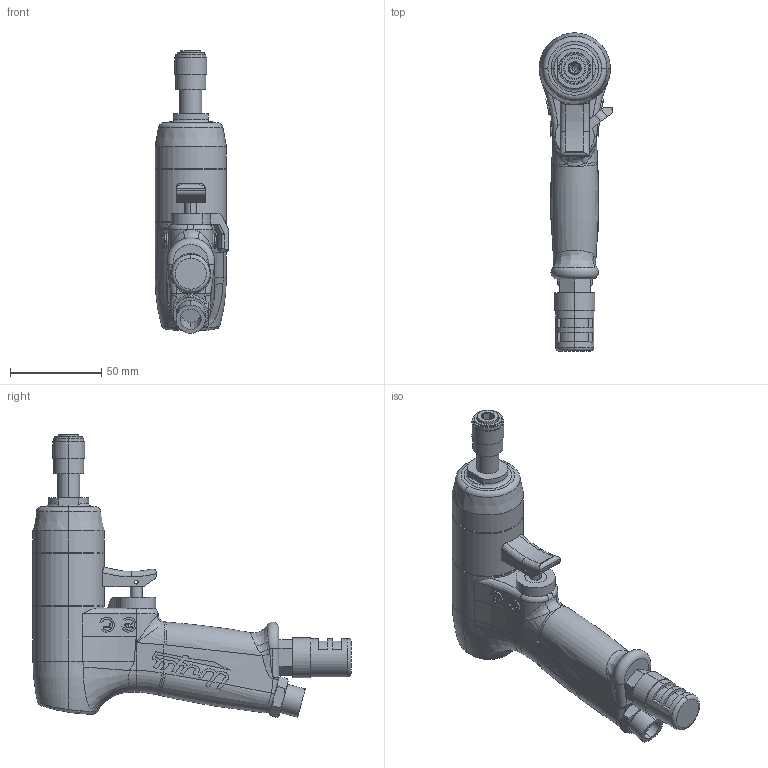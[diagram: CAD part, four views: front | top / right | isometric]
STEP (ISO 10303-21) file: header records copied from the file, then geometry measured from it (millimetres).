
FILE_DESCRIPTION (( 'STEP AP203' ), '1' );
FILE_NAME ('US-LD50P-05.STEP', '2006-05-24T08:04:58', ( '' ), ( '' ), 'SwSTEP 2.0', 'SolidWorks 2003240', '' );
FILE_SCHEMA (( 'CONFIG_CONTROL_DESIGN' ));
Length unit declared in the file: millimetre
Products named in the file (8): 4263504_US-LD50P-05_蹬怮椔; 0113511_US-LD50P-05_蹬怮椔; US-LD50P-05; 4250704_US-LD50P-05_蹬怮椔; 4260254_US-LD50P-05_蹬怮椔; 4802128_US-LD50P-05_蹬怮椔; 4261074_US-LD50P-05_蹬怮椔; 9810020_US-LD50P-05_蹬怮椔
Assembly tree (7 placements, depth 2):
  US-LD50P-05
    4260254_US-LD50P-05_蹬怮椔
    4261074_US-LD50P-05_蹬怮椔
    9810020_US-LD50P-05_蹬怮椔
    4250704_US-LD50P-05_蹬怮椔
    0113511_US-LD50P-05_蹬怮椔
    4802128_US-LD50P-05_蹬怮椔
    4263504_US-LD50P-05_蹬怮椔
Bounding box: 40.41 x 174 x 154.64 mm (x, y, z)
Volume: 251370.1 mm3; surface area: 43282.2 mm2
Topology: 7 solids, 7 shells, 653 faces, 1723 edges, 1119 vertices
Faces by surface type: plane 241, cylinder 181, bspline 176, cone 30, torus 23, sphere 2
Entity records: 64044 total; most frequent: CARTESIAN_POINT 49443, ORIENTED_EDGE 3430, DIRECTION 2022, EDGE_CURVE 1715, VERTEX_POINT 1116, AXIS2_PLACEMENT_3D 726, EDGE_LOOP 701, B_SPLINE_CURVE_WITH_KNOTS 682
